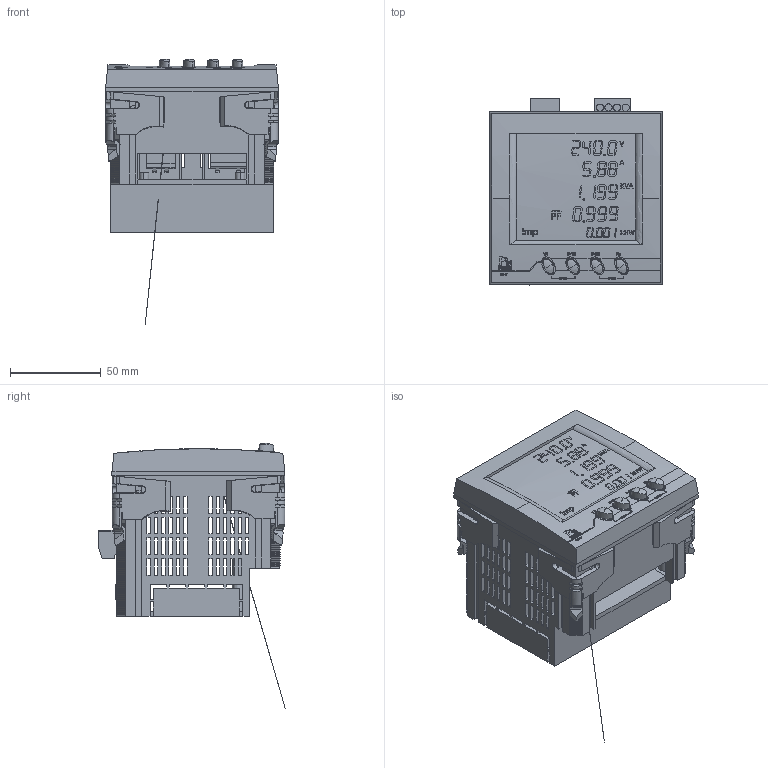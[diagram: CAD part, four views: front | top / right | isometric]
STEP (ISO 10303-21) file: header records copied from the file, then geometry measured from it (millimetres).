
FILE_DESCRIPTION (( 'STEP AP214' ), '1' );
FILE_NAME ('KM07.STEP', '2026-05-13T02:43:56', ( '' ), ( '' ), 'SwSTEP 2.0', 'SolidWorks 2022', '' );
FILE_SCHEMA (( 'AUTOMOTIVE_DESIGN' ));
Length unit declared in the file: millimetre
Products named in the file (1): KM07
Bounding box: 95.4 x 102.95 x 146.37 mm (x, y, z)
Volume: 129695 mm3; surface area: 133220.8 mm2
Topology: 23 solids, 23 shells, 2435 faces, 7297 edges, 5247 vertices
Faces by surface type: plane 2034, cylinder 339, bspline 32, cone 20, sphere 8, torus 2
Entity records: 90669 total; most frequent: CARTESIAN_POINT 23351, ORIENTED_EDGE 14570, DIRECTION 11584, EDGE_CURVE 7285, LINE 5824, VECTOR 5824, VERTEX_POINT 5243, EDGE_LOOP 3120
